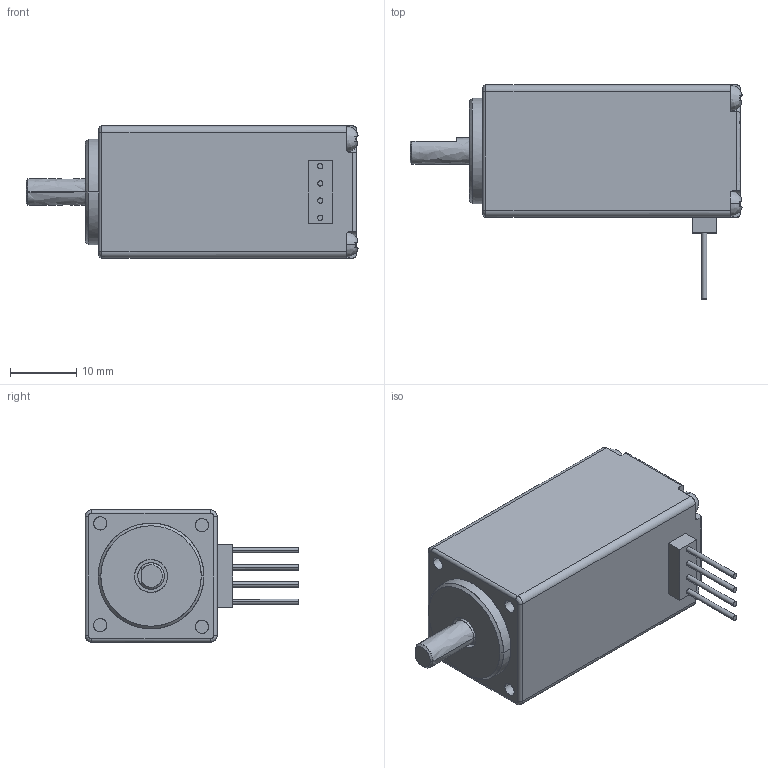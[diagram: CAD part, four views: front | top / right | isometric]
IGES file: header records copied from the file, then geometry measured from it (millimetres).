
Global section: file name: C:\DOCUME~1\PC001\BM-20L-C.igs; preprocessor: I-DEAS 3D IGES Translator 12; date: 20100628.115526; units: millimetre
Bounding box: 50.27 x 32.4 x 20 mm (x, y, z)
Surface area: 4336.6 mm2 (no closed solid volume)
Topology: 0 solids, 0 shells, 175 faces, 999 edges, 994 vertices
Faces by surface type: bspline 175
